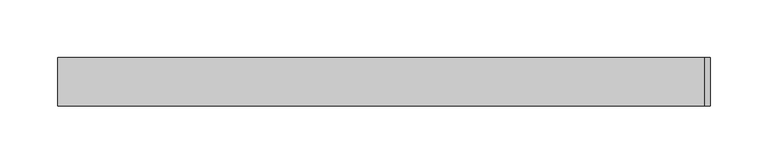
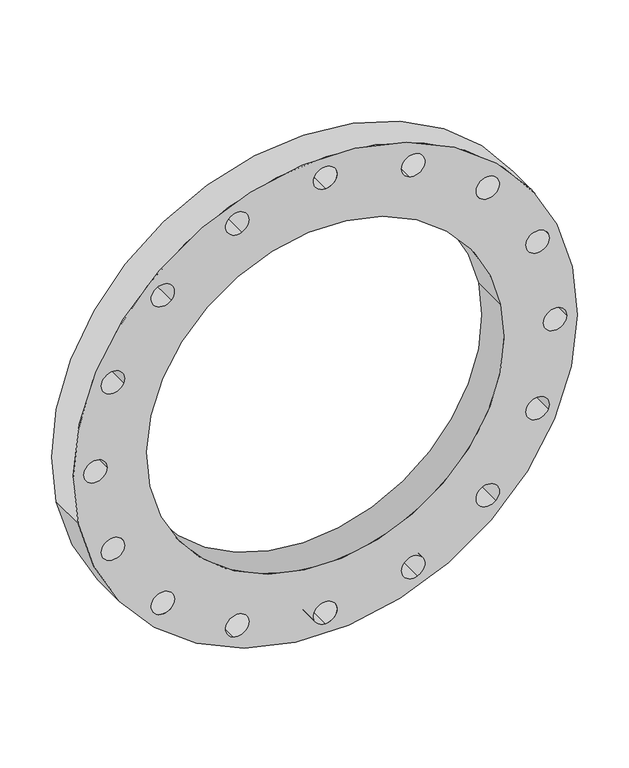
"""IFC4 building model written with IfcOpenShell, lengths in millimetres: pipe fitting geometry, 01051019 : Bridas."""

from ifc_helpers import new_model, si_unit, point, frame, frame_2d, origin, origin_2d, place, context, project, spatial, circle_curve, trimmed, segment, composite_curve, outline, extrude, source, transform, mapped, element, save


def pipe_fitting_f98c1159(model_context):
    return source(origin(), model_context, "Body", "SweptSolid", [
        extrude(outline(composite_curve([segment(trimmed(circle_curve(origin_2d(), 282.5), [point((-55.113016, -277.0718417))], [point((55.113016, 277.0718417))], False, "CARTESIAN"), True, "CONTINUOUS"), segment(trimmed(circle_curve(origin_2d(), 282.5), [point((55.113016, 277.0718417))], [point((-55.113016, -277.0718417))], False, "CARTESIAN"), True, "CONTINUOUS")], self_intersect=False), holes=[composite_curve([segment(trimmed(circle_curve(origin_2d(), 200.0), [point((-39.0180644, -196.1570561))], [point((39.0180644, 196.1570561))], True, "CARTESIAN"), True, "CONTINUOUS"), segment(trimmed(circle_curve(origin_2d(), 200.0), [point((39.0180644, 196.1570561))], [point((-39.0180644, -196.1570561))], True, "CARTESIAN"), True, "CONTINUOUS")], self_intersect=False), composite_curve([segment(trimmed(circle_curve(frame_2d((0.0, -257.5)), 13.0), [point((0.0, -244.5))], [point((0.0, -270.5))], True, "CARTESIAN"), True, "CONTINUOUS"), segment(trimmed(circle_curve(frame_2d((0.0, -257.5)), 13.0), [point((0.0, -270.5))], [point((0.0, -244.5))], True, "CARTESIAN"), True, "CONTINUOUS")], self_intersect=False), composite_curve([segment(trimmed(circle_curve(frame_2d((98.5409838, -237.8989796)), 13.0), [point((93.5660992, -225.8885457))], [point((103.5158685, -249.9094135))], True, "CARTESIAN"), True, "CONTINUOUS"), segment(trimmed(circle_curve(frame_2d((98.5409838, -237.8989796)), 13.0), [point((103.5158685, -249.9094135))], [point((93.5660992, -225.8885457))], True, "CARTESIAN"), True, "CONTINUOUS")], self_intersect=False), composite_curve([segment(trimmed(circle_curve(frame_2d((-98.5409838, -237.8989796)), 13.0), [point((-93.5660992, -225.8885457))], [point((-103.5158685, -249.9094135))], True, "CARTESIAN"), True, "CONTINUOUS"), segment(trimmed(circle_curve(frame_2d((-98.5409838, -237.8989796)), 13.0), [point((-103.5158685, -249.9094135))], [point((-93.5660992, -225.8885457))], True, "CARTESIAN"), True, "CONTINUOUS")], self_intersect=False), composite_curve([segment(trimmed(circle_curve(frame_2d((-182.0799962, -182.0799962)), 13.0), [point((-172.887608, -172.887608))], [point((-191.2723843, -191.2723843))], True, "CARTESIAN"), True, "CONTINUOUS"), segment(trimmed(circle_curve(frame_2d((-182.0799962, -182.0799962)), 13.0), [point((-191.2723843, -191.2723843))], [point((-172.887608, -172.887608))], True, "CARTESIAN"), True, "CONTINUOUS")], self_intersect=False), composite_curve([segment(trimmed(circle_curve(frame_2d((-237.8989796, -98.5409838)), 13.0), [point((-225.8885457, -93.5660992))], [point((-249.9094135, -103.5158685))], True, "CARTESIAN"), True, "CONTINUOUS"), segment(trimmed(circle_curve(frame_2d((-237.8989796, -98.5409838)), 13.0), [point((-249.9094135, -103.5158685))], [point((-225.8885457, -93.5660992))], True, "CARTESIAN"), True, "CONTINUOUS")], self_intersect=False), composite_curve([segment(trimmed(circle_curve(frame_2d((-257.5, 0.0)), 13.0), [point((-244.5, 0.0))], [point((-270.5, 0.0))], True, "CARTESIAN"), True, "CONTINUOUS"), segment(trimmed(circle_curve(frame_2d((-257.5, 0.0)), 13.0), [point((-270.5, 0.0))], [point((-244.5, 0.0))], True, "CARTESIAN"), True, "CONTINUOUS")], self_intersect=False), composite_curve([segment(trimmed(circle_curve(frame_2d((-237.8989796, 98.5409838)), 13.0), [point((-225.8885457, 93.5660992))], [point((-249.9094135, 103.5158685))], True, "CARTESIAN"), True, "CONTINUOUS"), segment(trimmed(circle_curve(frame_2d((-237.8989796, 98.5409838)), 13.0), [point((-249.9094135, 103.5158685))], [point((-225.8885457, 93.5660992))], True, "CARTESIAN"), True, "CONTINUOUS")], self_intersect=False), composite_curve([segment(trimmed(circle_curve(frame_2d((-182.0799962, 182.0799962)), 13.0), [point((-172.887608, 172.887608))], [point((-191.2723843, 191.2723843))], True, "CARTESIAN"), True, "CONTINUOUS"), segment(trimmed(circle_curve(frame_2d((-182.0799962, 182.0799962)), 13.0), [point((-191.2723843, 191.2723843))], [point((-172.887608, 172.887608))], True, "CARTESIAN"), True, "CONTINUOUS")], self_intersect=False), composite_curve([segment(trimmed(circle_curve(frame_2d((-98.5409838, 237.8989796)), 13.0), [point((-93.5660992, 225.8885457))], [point((-103.5158685, 249.9094135))], True, "CARTESIAN"), True, "CONTINUOUS"), segment(trimmed(circle_curve(frame_2d((-98.5409838, 237.8989796)), 13.0), [point((-103.5158685, 249.9094135))], [point((-93.5660992, 225.8885457))], True, "CARTESIAN"), True, "CONTINUOUS")], self_intersect=False), composite_curve([segment(trimmed(circle_curve(frame_2d((0.0, 257.5)), 13.0), [point((0.0, 244.5))], [point((0.0, 270.5))], True, "CARTESIAN"), True, "CONTINUOUS"), segment(trimmed(circle_curve(frame_2d((0.0, 257.5)), 13.0), [point((0.0, 270.5))], [point((0.0, 244.5))], True, "CARTESIAN"), True, "CONTINUOUS")], self_intersect=False), composite_curve([segment(trimmed(circle_curve(frame_2d((98.5409838, 237.8989796)), 13.0), [point((93.5660992, 225.8885457))], [point((103.5158685, 249.9094135))], True, "CARTESIAN"), True, "CONTINUOUS"), segment(trimmed(circle_curve(frame_2d((98.5409838, 237.8989796)), 13.0), [point((103.5158685, 249.9094135))], [point((93.5660992, 225.8885457))], True, "CARTESIAN"), True, "CONTINUOUS")], self_intersect=False), composite_curve([segment(trimmed(circle_curve(frame_2d((182.0799962, 182.0799962)), 13.0), [point((172.887608, 172.887608))], [point((191.2723843, 191.2723843))], True, "CARTESIAN"), True, "CONTINUOUS"), segment(trimmed(circle_curve(frame_2d((182.0799962, 182.0799962)), 13.0), [point((191.2723843, 191.2723843))], [point((172.887608, 172.887608))], True, "CARTESIAN"), True, "CONTINUOUS")], self_intersect=False), composite_curve([segment(trimmed(circle_curve(frame_2d((237.8989796, 98.5409838)), 13.0), [point((225.8885457, 93.5660992))], [point((249.9094135, 103.5158685))], True, "CARTESIAN"), True, "CONTINUOUS"), segment(trimmed(circle_curve(frame_2d((237.8989796, 98.5409838)), 13.0), [point((249.9094135, 103.5158685))], [point((225.8885457, 93.5660992))], True, "CARTESIAN"), True, "CONTINUOUS")], self_intersect=False), composite_curve([segment(trimmed(circle_curve(frame_2d((257.5, 0.0)), 13.0), [point((244.5, 0.0))], [point((270.5, 0.0))], True, "CARTESIAN"), True, "CONTINUOUS"), segment(trimmed(circle_curve(frame_2d((257.5, 0.0)), 13.0), [point((270.5, 0.0))], [point((244.5, 0.0))], True, "CARTESIAN"), True, "CONTINUOUS")], self_intersect=False), composite_curve([segment(trimmed(circle_curve(frame_2d((237.8989796, -98.5409838)), 13.0), [point((225.8885457, -93.5660992))], [point((249.9094135, -103.5158685))], True, "CARTESIAN"), True, "CONTINUOUS"), segment(trimmed(circle_curve(frame_2d((237.8989796, -98.5409838)), 13.0), [point((249.9094135, -103.5158685))], [point((225.8885457, -93.5660992))], True, "CARTESIAN"), True, "CONTINUOUS")], self_intersect=False), composite_curve([segment(trimmed(circle_curve(frame_2d((182.0799962, -182.0799962)), 13.0), [point((172.887608, -172.887608))], [point((191.2723843, -191.2723843))], True, "CARTESIAN"), True, "CONTINUOUS"), segment(trimmed(circle_curve(frame_2d((182.0799962, -182.0799962)), 13.0), [point((191.2723843, -191.2723843))], [point((172.887608, -172.887608))], True, "CARTESIAN"), True, "CONTINUOUS")], self_intersect=False)]), frame((0.0, -21.0, 0.0), z_axis=(0.0, 1.0, 0.0), x_axis=(0.0, 0.0, 1.0)), (0.0, 0.0, 1.0), 42.0),
    ])


if __name__ == "__main__":
    model = new_model("IFC4")
    model_context = context("Model", 3, world=origin())
    ifc_project = project(units=[si_unit("LENGTHUNIT", "METRE", prefix="MILLI")], contexts=[model_context])
    site = spatial("IfcSite", under=ifc_project)
    building = spatial("IfcBuilding", under=site)
    placement = place(None, origin())
    pipe_fitting_shape = pipe_fitting_f98c1159(model_context)
    element("IfcPipeFitting", 1, ObjectType="01051019 : Bridas", at=placement, inside=building, context=model_context, shape_type="MappedRepresentation", body=[
        mapped(pipe_fitting_shape, transform((0.0, 0.0, 0.0), x_axis=(1.0, 0.0, 0.0), y_axis=(0.0, 1.0, 0.0), z_axis=(0.0, 0.0, 1.0))),
    ])
    save(model, "model.ifc")
